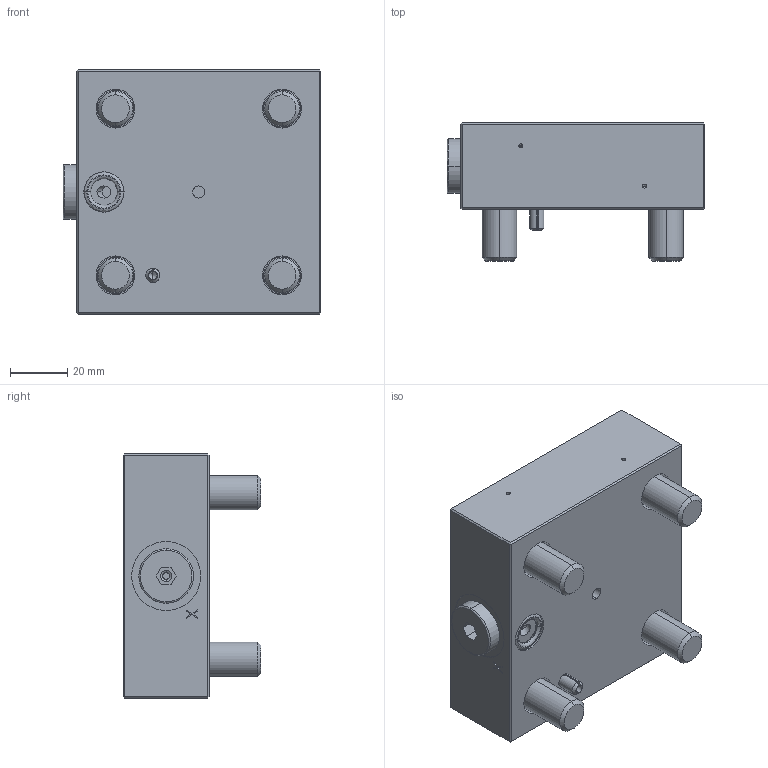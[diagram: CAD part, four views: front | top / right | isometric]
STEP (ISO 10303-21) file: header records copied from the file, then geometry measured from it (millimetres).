
FILE_DESCRIPTION (( 'STEP AP214' ), '1' );
FILE_NAME ('D25410.STEP', '2017-03-17T14:34:01', ( '' ), ( '' ), 'SwSTEP 2.0', 'SolidWorks 2016', '' );
FILE_SCHEMA (( 'AUTOMOTIVE_DESIGN' ));
Length unit declared in the file: millimetre
Products named in the file (1): D25410
Bounding box: 89.7 x 48 x 85 mm (x, y, z)
Volume: 216634.6 mm3; surface area: 42318.2 mm2
Topology: 8 solids, 9 shells, 248 faces, 550 edges, 329 vertices
Faces by surface type: plane 126, cylinder 66, cone 30, torus 18, bspline 8
Entity records: 9608 total; most frequent: CARTESIAN_POINT 1270, DIRECTION 1228, ORIENTED_EDGE 1072, EDGE_CURVE 536, AXIS2_PLACEMENT_3D 463, VERTEX_POINT 329, VECTOR 302, LINE 302
